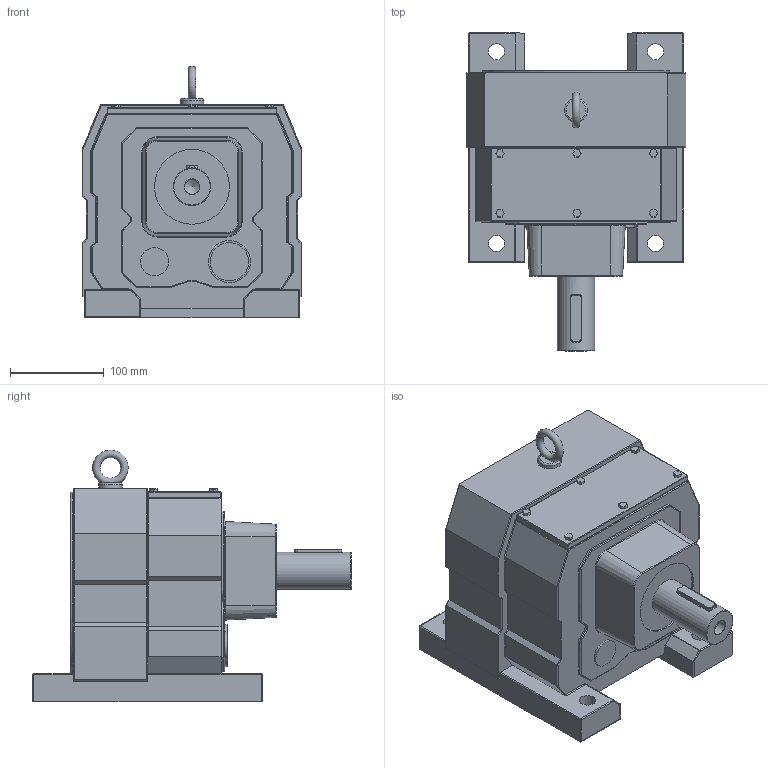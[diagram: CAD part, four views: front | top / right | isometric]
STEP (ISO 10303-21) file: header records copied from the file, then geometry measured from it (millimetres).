
FILE_DESCRIPTION((''),'2;1');
FILE_NAME('D:\PAWEŁ\ZLECENIA\2011 DualSystem\Przekładnie DR\DR70\STEP\DR70.stp','2012-06-11T12:10:56',('admin'),(''),'Autodesk Inventor 2009','Autodesk Inventor 2009','');
FILE_SCHEMA(('AUTOMOTIVE_DESIGN { 1 0 10303 214 1 1 1 1 }'));
Length unit declared in the file: millimetre
Products named in the file (1): DR70
Bounding box: 235 x 340 x 268.93 mm (x, y, z)
Volume: 8841728.3 mm3; surface area: 354202.6 mm2
Topology: 2 solids, 2 shells, 459 faces, 1080 edges, 596 vertices
Faces by surface type: cylinder 220, plane 142, sphere 52, torus 21, bspline 20, cone 4
Full cylindrical faces by diameter (mm): 17.5 x4, 22.5 x4, 25 x1, 30 x1, 40 x1, 41 x1, 45 x1, 80 x1, 160 x1, 200 x1
Entity records: 14020 total; most frequent: CARTESIAN_POINT 3530, DIRECTION 2293, ORIENTED_EDGE 2000, EDGE_CURVE 1000, AXIS2_PLACEMENT_3D 868, VERTEX_POINT 592, VECTOR 557, LINE 557
